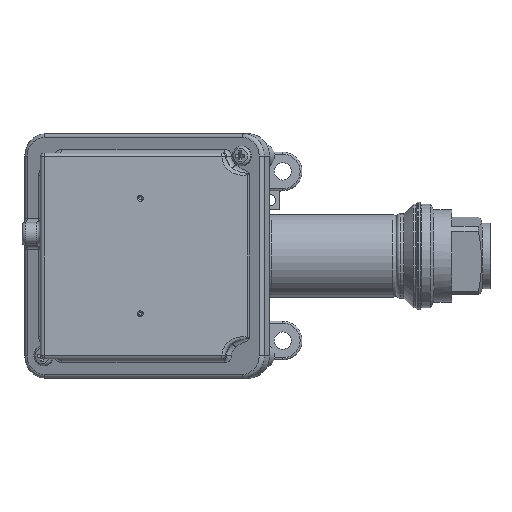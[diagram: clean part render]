
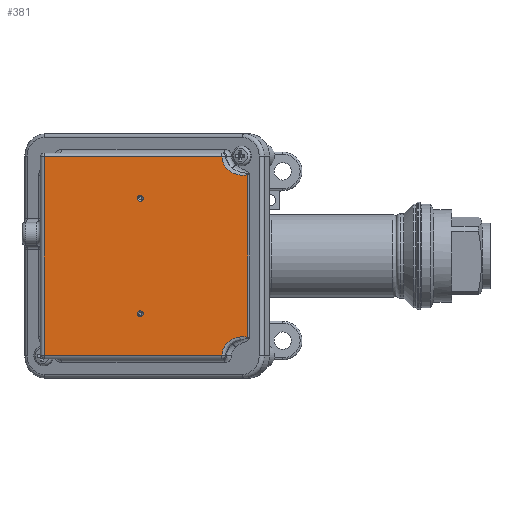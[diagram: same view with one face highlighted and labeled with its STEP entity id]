
A CAD part, left-side view. The second image highlights one B-rep face of the part: STEP entity #381.
In plain terms, the highlighted planar face has unit normal (-1, 0.005, 0).
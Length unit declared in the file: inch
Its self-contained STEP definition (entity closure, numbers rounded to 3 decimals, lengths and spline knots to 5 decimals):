
#82 = VERTEX_POINT ( 'NONE', #2279 ) ;
#123 = ORIENTED_EDGE ( 'NONE', *, *, #1646, .T. ) ;
#381 = ADVANCED_FACE ( 'NONE', ( #4267, #1726, #537 ), #3652, .F. ) ;
#446 = CIRCLE ( 'NONE', #3750, 0.0465 ) ;
#512 = VERTEX_POINT ( 'NONE', #2556 ) ;
#537 = FACE_OUTER_BOUND ( 'NONE', #7306, .T. ) ;
#741 = DIRECTION ( 'NONE',  ( 0.005, 1., 0. ) ) ;
#779 = LINE ( 'NONE', #7661, #897 ) ;
#897 = VECTOR ( 'NONE', #741, 39.37008 ) ;
#901 = VERTEX_POINT ( 'NONE', #2949 ) ;
#1006 = CARTESIAN_POINT ( 'NONE',  ( -2.32057, 0.61286, 1.61 ) ) ;
#1050 = EDGE_CURVE ( 'NONE', #6751, #4700, #2731, .T. ) ;
#1094 = EDGE_CURVE ( 'NONE', #7129, #7129, #446, .T. ) ;
#1110 = CARTESIAN_POINT ( 'NONE',  ( -2.32057, 0.61286, -1.61 ) ) ;
#1375 = CARTESIAN_POINT ( 'NONE',  ( -2.3055, 3.50088, 1.6725 ) ) ;
#1624 = CARTESIAN_POINT ( 'NONE',  ( -2.31365, 1.9384, -0.938 ) ) ;
#1646 = EDGE_CURVE ( 'NONE', #7511, #82, #3894, .T. ) ;
#1653 = CARTESIAN_POINT ( 'NONE',  ( -2.32276, 0.19397, -1.32146 ) ) ;
#1684 = ORIENTED_EDGE ( 'NONE', *, *, #7083, .T. ) ;
#1726 = FACE_BOUND ( 'NONE', #6389, .T. ) ;
#1881 = EDGE_CURVE ( 'NONE', #901, #7511, #3282, .T. ) ;
#1956 = CARTESIAN_POINT ( 'NONE',  ( -2.31365, 1.9384, 0.937 ) ) ;
#2026 = DIRECTION ( 'NONE',  ( -0.005, -1., 0. ) ) ;
#2057 = CARTESIAN_POINT ( 'NONE',  ( -2.31389, 1.8919, -0.938 ) ) ;
#2150 = CARTESIAN_POINT ( 'NONE',  ( -2.32276, 0.19397, 1.6725 ) ) ;
#2236 = CARTESIAN_POINT ( 'NONE',  ( -2.3055, 3.50088, -1.61 ) ) ;
#2249 = CARTESIAN_POINT ( 'NONE',  ( -2.32159, 0.41746, 1.27099 ) ) ;
#2263 = CARTESIAN_POINT ( 'NONE',  ( -2.32159, 0.41746, -1.27099 ) ) ;
#2279 = CARTESIAN_POINT ( 'NONE',  ( -2.32057, 0.61286, -1.61 ) ) ;
#2334 = CARTESIAN_POINT ( 'NONE',  ( -2.32282, 0.18143, 1.6725 ) ) ;
#2365 = CIRCLE ( 'NONE', #4327, 0.0465 ) ;
#2556 = CARTESIAN_POINT ( 'NONE',  ( -2.31389, 1.8919, 0.937 ) ) ;
#2575 = VERTEX_POINT ( 'NONE', #6906 ) ;
#2620 = ORIENTED_EDGE ( 'NONE', *, *, #7124, .F. ) ;
#2700 = VECTOR ( 'NONE', #5246, 39.37008 ) ;
#2731 = LINE ( 'NONE', #2150, #2700 ) ;
#2768 = CARTESIAN_POINT ( 'NONE',  ( -2.32276, 0.19397, 1.32146 ) ) ;
#2949 = CARTESIAN_POINT ( 'NONE',  ( -2.3055, 3.50088, 1.61 ) ) ;
#3206 = ORIENTED_EDGE ( 'NONE', *, *, #5861, .T. ) ;
#3282 = LINE ( 'NONE', #1375, #7447 ) ;
#3587 = CARTESIAN_POINT ( 'NONE',  ( -2.32063, 0.60182, -1.39798 ) ) ;
#3651 = ORIENTED_EDGE ( 'NONE', *, *, #1881, .T. ) ;
#3652 = PLANE ( 'NONE',  #6249 ) ;
#3750 = AXIS2_PLACEMENT_3D ( 'NONE', #1624, #5561, #6754 ) ;
#3854 = DIRECTION ( 'NONE',  ( -0.005, -1., 0. ) ) ;
#3860 = CARTESIAN_POINT ( 'NONE',  ( -2.32276, 0.19397, -1.32146 ) ) ;
#3883 = DIRECTION ( 'NONE',  ( 0., 0., -1. ) ) ;
#3894 = LINE ( 'NONE', #7150, #6778 ) ;
#4267 = FACE_BOUND ( 'NONE', #5664, .T. ) ;
#4327 = AXIS2_PLACEMENT_3D ( 'NONE', #1956, #7700, #2026 ) ;
#4385 = DIRECTION ( 'NONE',  ( 1., -0.005, 0. ) ) ;
#4700 = VERTEX_POINT ( 'NONE', #2768 ) ;
#4914 = ORIENTED_EDGE ( 'NONE', *, *, #1050, .T. ) ;
#5016 = ORIENTED_EDGE ( 'NONE', *, *, #1094, .F. ) ;
#5246 = DIRECTION ( 'NONE',  ( 0., 0., 1. ) ) ;
#5520 = ORIENTED_EDGE ( 'NONE', *, *, #6607, .T. ) ;
#5561 = DIRECTION ( 'NONE',  ( -1., 0.005, 0. ) ) ;
#5664 = EDGE_LOOP ( 'NONE', ( #2620 ) ) ;
#5837 =( BOUNDED_CURVE ( )  B_SPLINE_CURVE ( 3, ( #5965, #2249, #7362, #1006 ),
 .UNSPECIFIED., .F., .T. ) 
 B_SPLINE_CURVE_WITH_KNOTS ( ( 4, 4 ),
 ( 1.33072, 3.09357 ),
 .UNSPECIFIED. ) 
 CURVE ( )  GEOMETRIC_REPRESENTATION_ITEM ( )  RATIONAL_B_SPLINE_CURVE ( ( 1., 0.757, 0.757, 1. ) ) 
 REPRESENTATION_ITEM ( '' )  );
#5861 = EDGE_CURVE ( 'NONE', #4700, #2575, #5837, .T. ) ;
#5965 = CARTESIAN_POINT ( 'NONE',  ( -2.32276, 0.19397, 1.32146 ) ) ;
#6150 =( BOUNDED_CURVE ( )  B_SPLINE_CURVE ( 3, ( #1110, #3587, #2263, #1653 ),
 .UNSPECIFIED., .F., .T. ) 
 B_SPLINE_CURVE_WITH_KNOTS ( ( 4, 4 ),
 ( 3.18961, 4.95247 ),
 .UNSPECIFIED. ) 
 CURVE ( )  GEOMETRIC_REPRESENTATION_ITEM ( )  RATIONAL_B_SPLINE_CURVE ( ( 1., 0.757, 0.757, 1. ) ) 
 REPRESENTATION_ITEM ( '' )  );
#6249 = AXIS2_PLACEMENT_3D ( 'NONE', #2334, #4385, #7441 ) ;
#6389 = EDGE_LOOP ( 'NONE', ( #5016 ) ) ;
#6607 = EDGE_CURVE ( 'NONE', #82, #6751, #6150, .T. ) ;
#6751 = VERTEX_POINT ( 'NONE', #3860 ) ;
#6754 = DIRECTION ( 'NONE',  ( -0.005, -1., 0. ) ) ;
#6778 = VECTOR ( 'NONE', #3854, 39.37008 ) ;
#6906 = CARTESIAN_POINT ( 'NONE',  ( -2.32057, 0.61286, 1.61 ) ) ;
#7083 = EDGE_CURVE ( 'NONE', #2575, #901, #779, .T. ) ;
#7124 = EDGE_CURVE ( 'NONE', #512, #512, #2365, .T. ) ;
#7129 = VERTEX_POINT ( 'NONE', #2057 ) ;
#7150 = CARTESIAN_POINT ( 'NONE',  ( -2.32081, 0.56672, -1.61 ) ) ;
#7306 = EDGE_LOOP ( 'NONE', ( #3651, #123, #5520, #4914, #3206, #1684 ) ) ;
#7362 = CARTESIAN_POINT ( 'NONE',  ( -2.32063, 0.60182, 1.39798 ) ) ;
#7441 = DIRECTION ( 'NONE',  ( 0.005, 1., 0. ) ) ;
#7447 = VECTOR ( 'NONE', #3883, 39.37008 ) ;
#7511 = VERTEX_POINT ( 'NONE', #2236 ) ;
#7661 = CARTESIAN_POINT ( 'NONE',  ( -2.32282, 0.18143, 1.61 ) ) ;
#7700 = DIRECTION ( 'NONE',  ( -1., 0.005, 0. ) ) ;
